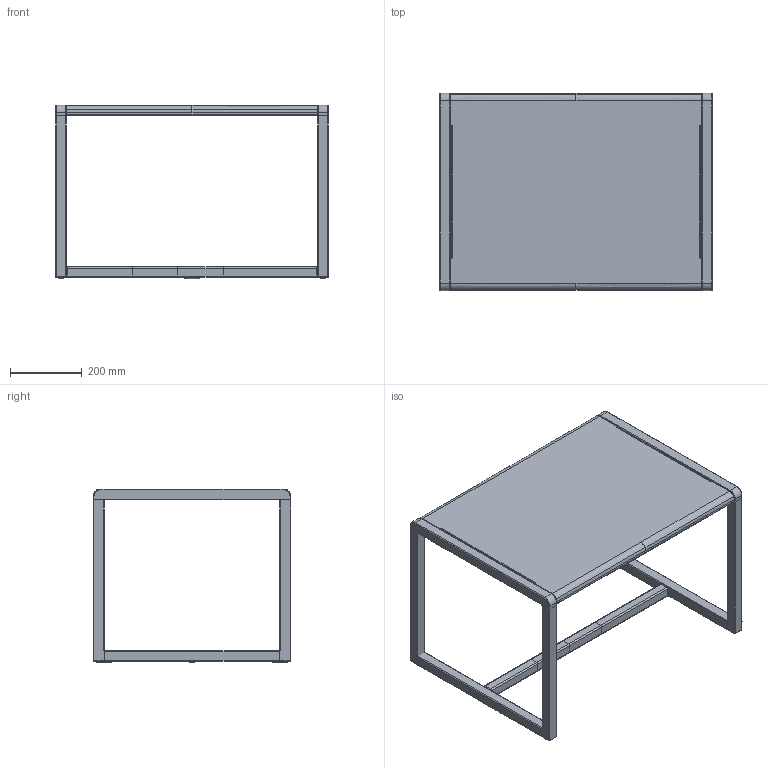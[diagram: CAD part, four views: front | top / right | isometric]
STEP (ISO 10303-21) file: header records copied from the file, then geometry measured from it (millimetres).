
FILE_DESCRIPTION(/* description */ (''),/* implementation_level */ '2;1');
FILE_NAME(/* name */ 'LOFD40~1',/* time_stamp */ '2017-11-13T16:18:43+01:00',/* author */ (''),/* organization */ (''),/* preprocessor_version */ 'ST-DEVELOPER v15',/* originating_system */ '',/* authorisation */ '');
FILE_SCHEMA (('AUTOMOTIVE_DESIGN'));
Length unit declared in the file: millimetre
Products named in the file (1): Document
Bounding box: 760 x 550 x 484 mm (x, y, z)
Volume: 4622046.5 mm3; surface area: 1176485 mm2
Topology: 25 solids, 27 shells, 726 faces, 1716 edges, 1062 vertices
Faces by surface type: bspline 726
Entity records: 41341 total; most frequent: CARTESIAN_POINT 20322, B_SPLINE_CURVE_WITH_KNOTS 3617, ORIENTED_EDGE 3410, PCURVE 3410, DEFINITIONAL_REPRESENTATION 3410, SURFACE_CURVE 1716, EDGE_CURVE 1716, VERTEX_POINT 1062
